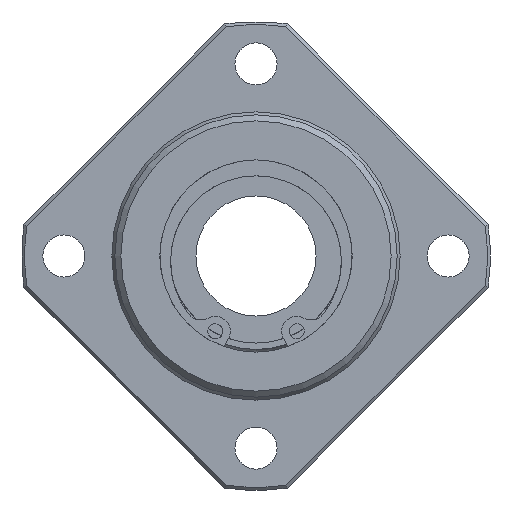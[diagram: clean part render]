
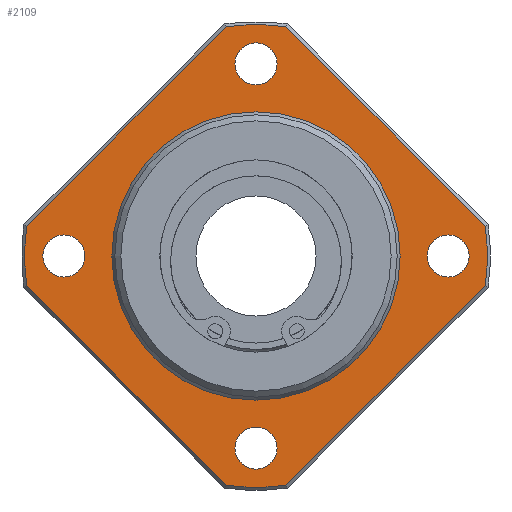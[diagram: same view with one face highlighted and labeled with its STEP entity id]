
A CAD part, left-side view. The second image highlights one B-rep face of the part: STEP entity #2109.
In plain terms, the highlighted planar face has unit normal (-1, 0, 0).
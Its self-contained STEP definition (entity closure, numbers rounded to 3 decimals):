
#1796=CARTESIAN_POINT('',(90.0,-4.954,-38.18));
#1797=VERTEX_POINT('',#1796);
#1805=CARTESIAN_POINT('',(90.0,4.954,-38.18));
#1806=VERTEX_POINT('',#1805);
#1807=CARTESIAN_POINT('',(90.0,0.0,0.0));
#1808=DIRECTION('',(1.0,0.0,0.0));
#1809=DIRECTION('',(0.0,0.0,-1.0));
#1810=AXIS2_PLACEMENT_3D('',#1807,#1808,#1809);
#1811=CIRCLE('',#1810,38.5);
#1812=EDGE_CURVE('',#1797,#1806,#1811,.T.);
#1831=CARTESIAN_POINT('',(90.0,38.18,-4.954));
#1832=VERTEX_POINT('',#1831);
#1833=CARTESIAN_POINT('',(90.0,4.954,-38.18));
#1834=DIRECTION('',(0.0,0.707,0.707));
#1835=VECTOR('',#1834,46.989);
#1836=LINE('',#1833,#1835);
#1837=EDGE_CURVE('',#1806,#1832,#1836,.T.);
#1864=CARTESIAN_POINT('',(90.0,38.18,4.954));
#1865=VERTEX_POINT('',#1864);
#1866=CARTESIAN_POINT('',(90.0,0.0,0.0));
#1867=DIRECTION('',(1.0,0.0,0.0));
#1868=DIRECTION('',(0.0,0.0,1.0));
#1869=AXIS2_PLACEMENT_3D('',#1866,#1867,#1868);
#1870=CIRCLE('',#1869,38.5);
#1871=EDGE_CURVE('',#1832,#1865,#1870,.T.);
#1897=CARTESIAN_POINT('',(90.0,4.954,38.18));
#1898=VERTEX_POINT('',#1897);
#1899=CARTESIAN_POINT('',(90.0,38.18,4.954));
#1900=DIRECTION('',(0.0,-0.707,0.707));
#1901=VECTOR('',#1900,46.989);
#1902=LINE('',#1899,#1901);
#1903=EDGE_CURVE('',#1865,#1898,#1902,.T.);
#1930=CARTESIAN_POINT('',(90.0,-4.954,38.18));
#1931=VERTEX_POINT('',#1930);
#1932=CARTESIAN_POINT('',(90.0,0.0,0.0));
#1933=DIRECTION('',(1.0,0.0,0.0));
#1934=DIRECTION('',(0.0,0.0,1.0));
#1935=AXIS2_PLACEMENT_3D('',#1932,#1933,#1934);
#1936=CIRCLE('',#1935,38.5);
#1937=EDGE_CURVE('',#1898,#1931,#1936,.T.);
#1961=CARTESIAN_POINT('',(90.0,-38.18,4.954));
#1962=VERTEX_POINT('',#1961);
#1963=CARTESIAN_POINT('',(90.0,-4.954,38.18));
#1964=DIRECTION('',(0.0,-0.707,-0.707));
#1965=VECTOR('',#1964,46.989);
#1966=LINE('',#1963,#1965);
#1967=EDGE_CURVE('',#1931,#1962,#1966,.T.);
#1986=CARTESIAN_POINT('',(90.0,-38.18,-4.954));
#1987=VERTEX_POINT('',#1986);
#1988=CARTESIAN_POINT('',(90.0,0.0,0.0));
#1989=DIRECTION('',(1.0,0.0,0.0));
#1990=DIRECTION('',(0.0,0.0,1.0));
#1991=AXIS2_PLACEMENT_3D('',#1988,#1989,#1990);
#1992=CIRCLE('',#1991,38.5);
#1993=EDGE_CURVE('',#1962,#1987,#1992,.T.);
#2012=CARTESIAN_POINT('',(90.0,-38.18,-4.954));
#2013=DIRECTION('',(0.0,0.707,-0.707));
#2014=VECTOR('',#2013,46.989);
#2015=LINE('',#2012,#2014);
#2016=EDGE_CURVE('',#1987,#1797,#2015,.T.);
#2039=CARTESIAN_POINT('',(90.0,0.0,31.5));
#2040=DIRECTION('',(-1.0,0.0,0.0));
#2041=DIRECTION('',(0.0,0.0,1.0));
#2042=AXIS2_PLACEMENT_3D('',#2039,#2040,#2041);
#2043=PLANE('',#2042);
#2044=ORIENTED_EDGE('',*,*,#1812,.F.);
#2045=ORIENTED_EDGE('',*,*,#2016,.F.);
#2046=ORIENTED_EDGE('',*,*,#1993,.F.);
#2047=ORIENTED_EDGE('',*,*,#1967,.F.);
#2048=ORIENTED_EDGE('',*,*,#1937,.F.);
#2049=ORIENTED_EDGE('',*,*,#1903,.F.);
#2050=ORIENTED_EDGE('',*,*,#1871,.F.);
#2051=ORIENTED_EDGE('',*,*,#1837,.F.);
#2052=EDGE_LOOP('',(#2044,#2045,#2046,#2047,#2048,#2049,#2050,#2051));
#2053=FACE_OUTER_BOUND('',#2052,.T.);
#2054=CARTESIAN_POINT('',(90.0,0.0,24.));
#2055=VERTEX_POINT('',#2054);
#2056=CARTESIAN_POINT('',(90.0,0.0,0.0));
#2057=DIRECTION('',(-1.0,0.0,0.0));
#2058=DIRECTION('',(0.0,0.0,1.0));
#2059=AXIS2_PLACEMENT_3D('',#2056,#2057,#2058);
#2060=CIRCLE('',#2059,24.);
#2061=EDGE_CURVE('',#2055,#2055,#2060,.T.);
#2062=ORIENTED_EDGE('',*,*,#2061,.F.);
#2063=EDGE_LOOP('',(#2062));
#2064=FACE_BOUND('',#2063,.T.);
#2065=CARTESIAN_POINT('',(90.0,3.5,32.0));
#2066=VERTEX_POINT('',#2065);
#2067=CARTESIAN_POINT('',(90.0,0.,32.0));
#2068=DIRECTION('',(1.0,0.0,0.0));
#2069=DIRECTION('',(0.0,1.0,0.0));
#2070=AXIS2_PLACEMENT_3D('',#2067,#2068,#2069);
#2071=CIRCLE('',#2070,3.5);
#2072=EDGE_CURVE('',#2066,#2066,#2071,.T.);
#2073=ORIENTED_EDGE('',*,*,#2072,.T.);
#2074=EDGE_LOOP('',(#2073));
#2075=FACE_BOUND('',#2074,.T.);
#2076=CARTESIAN_POINT('',(90.0,-32.0,3.5));
#2077=VERTEX_POINT('',#2076);
#2078=CARTESIAN_POINT('',(90.0,-32.0,0.));
#2079=DIRECTION('',(1.0,0.0,0.0));
#2080=DIRECTION('',(0.0,0.0,1.0));
#2081=AXIS2_PLACEMENT_3D('',#2078,#2079,#2080);
#2082=CIRCLE('',#2081,3.5);
#2083=EDGE_CURVE('',#2077,#2077,#2082,.T.);
#2084=ORIENTED_EDGE('',*,*,#2083,.T.);
#2085=EDGE_LOOP('',(#2084));
#2086=FACE_BOUND('',#2085,.T.);
#2087=CARTESIAN_POINT('',(90.0,-3.5,-32.0));
#2088=VERTEX_POINT('',#2087);
#2089=CARTESIAN_POINT('',(90.0,0.,-32.0));
#2090=DIRECTION('',(1.0,0.0,0.0));
#2091=DIRECTION('',(0.0,-1.0,0.0));
#2092=AXIS2_PLACEMENT_3D('',#2089,#2090,#2091);
#2093=CIRCLE('',#2092,3.5);
#2094=EDGE_CURVE('',#2088,#2088,#2093,.T.);
#2095=ORIENTED_EDGE('',*,*,#2094,.T.);
#2096=EDGE_LOOP('',(#2095));
#2097=FACE_BOUND('',#2096,.T.);
#2098=CARTESIAN_POINT('',(90.0,32.0,-3.5));
#2099=VERTEX_POINT('',#2098);
#2100=CARTESIAN_POINT('',(90.0,32.0,0.));
#2101=DIRECTION('',(1.0,0.0,0.0));
#2102=DIRECTION('',(0.0,0.0,-1.0));
#2103=AXIS2_PLACEMENT_3D('',#2100,#2101,#2102);
#2104=CIRCLE('',#2103,3.5);
#2105=EDGE_CURVE('',#2099,#2099,#2104,.T.);
#2106=ORIENTED_EDGE('',*,*,#2105,.T.);
#2107=EDGE_LOOP('',(#2106));
#2108=FACE_BOUND('',#2107,.T.);
#2109=ADVANCED_FACE('',(#2053,#2064,#2075,#2086,#2097,#2108),#2043,.T.);
